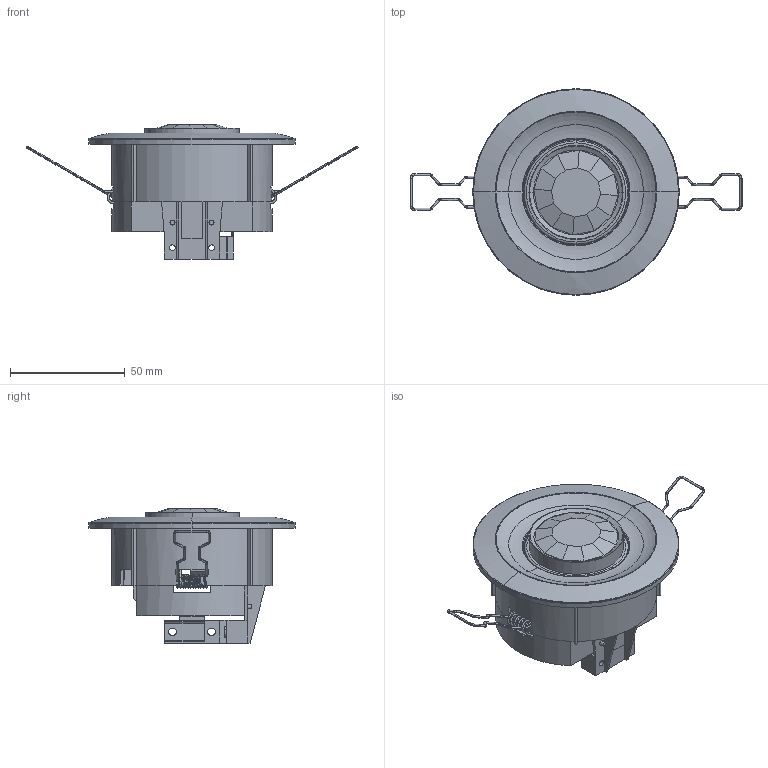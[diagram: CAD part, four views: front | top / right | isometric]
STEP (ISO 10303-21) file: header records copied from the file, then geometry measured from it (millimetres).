
FILE_DESCRIPTION((''),'2;1');
FILE_NAME('15013195Z','2019-04-24T09:02:12',('muell'),(''),'CREO PARAMETRIC BY PTC INC, 2017380','CREO PARAMETRIC BY PTC INC, 2017380','');
FILE_SCHEMA(('AUTOMOTIVE_DESIGN { 1 0 10303 214 1 1 1 1 }'));
Length unit declared in the file: millimetre
Products named in the file (1): 15013195Z
Bounding box: 144.59 x 90 x 58.6 mm (x, y, z)
Volume: 63453.8 mm3; surface area: 55971 mm2
Topology: 1 solids, 7 shells, 955 faces, 2671 edges, 1657 vertices
Faces by surface type: plane 405, cylinder 313, torus 162, sphere 49, cone 18, bspline 8
Entity records: 47622 total; most frequent: CARTESIAN_POINT 9321, ORIENTED_EDGE 5244, DIRECTION 5209, PRESENTATION_STYLE_ASSIGNMENT 3409, STYLED_ITEM 2623, CURVE_STYLE 2622, EDGE_CURVE 2622, AXIS2_PLACEMENT_3D 1963
